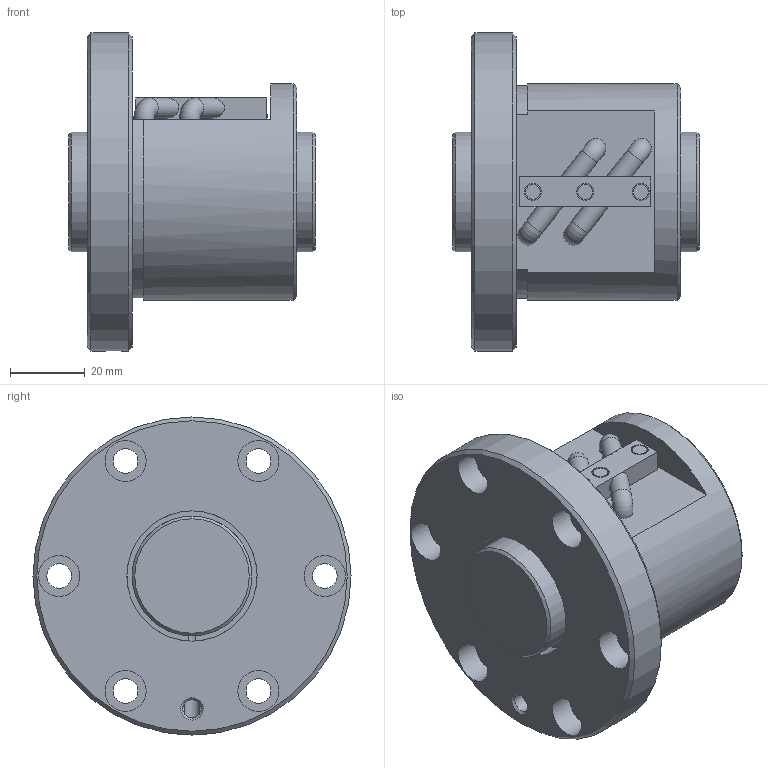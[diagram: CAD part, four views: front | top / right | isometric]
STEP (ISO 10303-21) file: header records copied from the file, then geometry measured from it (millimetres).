
FILE_DESCRIPTION(/* description */ ('STEP AP203'),/* implementation_level */ '2;1');
FILE_NAME(/* name */ 'BIF3205V-5RRG0+66LC0_000',/* time_stamp */ '2024-07-15T08:18:31+02:00',/* author */ ('License CC BY-ND 4.0'),/* organization */ ('CADENAS'),/* preprocessor_version */ 'ST-DEVELOPER v19.3',/* originating_system */ 'PARTsolutions',/* authorisation */ ' ');
FILE_SCHEMA (('CONFIG_CONTROL_DESIGN'));
Length unit declared in the file: millimetre
Products named in the file (3): BIF3205V-5RRG0+66LC0_000; BIF3205V-5RR000 Shaft; BIF3205V-5RR Nut
Assembly tree (2 placements, depth 2):
  BIF3205V-5RRG0+66LC0_000
    BIF3205V-5RR000 Shaft
    BIF3205V-5RR Nut
Bounding box: 66 x 85 x 85 mm (x, y, z)
Volume: 176899.6 mm3; surface area: 38242.4 mm2
Topology: 2 solids, 2 shells, 89 faces, 200 edges, 127 vertices
Faces by surface type: plane 41, cylinder 36, cone 8, torus 4
Full cylindrical faces by diameter (mm): 4 x3, 4.25 x2, 4.6 x3, 4.917 x1, 5.4 x4, 6.6 x6, 11 x6, 32 x2, 34.8 x2, 58 x1, 85 x1
Entity records: 2401 total; most frequent: CARTESIAN_POINT 455, DIRECTION 424, ORIENTED_EDGE 298, AXIS2_PLACEMENT_3D 194, EDGE_LOOP 164, FACE_BOUND 164, EDGE_CURVE 149, VERTEX_POINT 115
